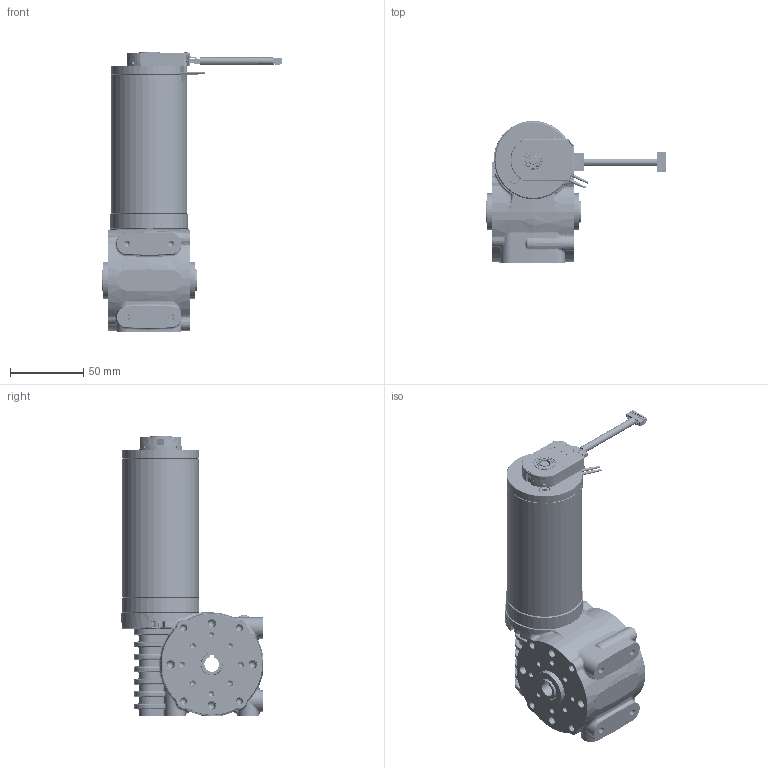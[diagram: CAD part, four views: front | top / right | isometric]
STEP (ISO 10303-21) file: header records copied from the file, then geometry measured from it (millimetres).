
FILE_DESCRIPTION (( 'STEP AP214' ), '1' );
FILE_NAME ('BRx52-30-GB80 - Encoder.STEP', '2025-05-02T09:04:09', ( '' ), ( '' ), 'SwSTEP 2.0', 'SolidWorks 2023', '' );
FILE_SCHEMA (( 'AUTOMOTIVE_DESIGN' ));
Length unit declared in the file: millimetre
Products named in the file (1): BRx52-30-GB80 - Encoder
Bounding box: 123.45 x 96.92 x 190.65 mm (x, y, z)
Volume: 304213.1 mm3; surface area: 159639.5 mm2
Topology: 47 solids, 47 shells, 5771 faces, 15191 edges, 9624 vertices
Faces by surface type: cylinder 2419, plane 1951, cone 540, torus 421, bspline 414, sphere 26
Entity records: 272553 total; most frequent: CARTESIAN_POINT 67853, ORIENTED_EDGE 30182, DIRECTION 29139, EDGE_CURVE 15091, AXIS2_PLACEMENT_3D 11051, VERTEX_POINT 9624, LINE 7037, VECTOR 7037
